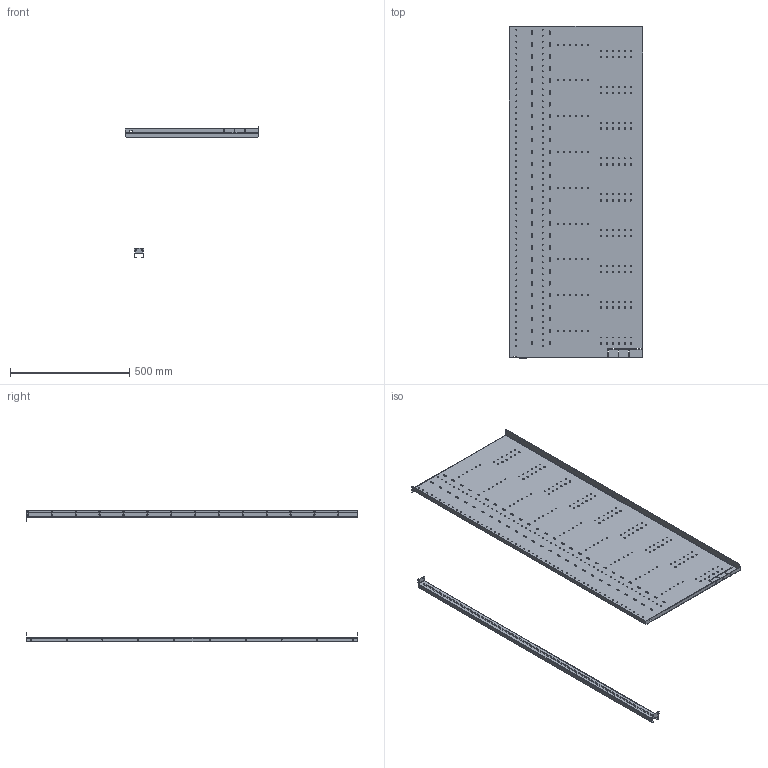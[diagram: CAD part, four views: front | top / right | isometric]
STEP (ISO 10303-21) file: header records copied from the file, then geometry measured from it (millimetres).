
FILE_DESCRIPTION(('CAx-IF Rec.Pracs.---Model Styling and Organization---1.2---2011-12-15','CAx-IF Rec.Pracs.---Geometric and Assembly Validation Properties---4.1---2014-06-16','CAx-IF Rec.Pracs.---PMI Polyline Presentation---2.0---2013-05-24'),'2;1');
FILE_NAME('R5M2CCR27M12.stp','2021-05-05T11:51:29+03:00',(''),(''),'STEP Interface 4.4 by CT CoreTechnologie','3D_Evolution4.4 by CT CoreTechnologie','');
FILE_SCHEMA(('AUTOMOTIVE_DESIGN { 1 0 10303 214 1 1 1 1 }'));
Length unit declared in the file: millimetre
Products named in the file (3): R5M2CCR27M12; RB.0838.00.00.0_-01; RB.1402.00.00.0_-01
Assembly tree (2 placements, depth 2):
  R5M2CCR27M12
    RB.0838.00.00.0_-01
    RB.1402.00.00.0_-01
Bounding box: 559.5 x 1390 x 552 mm (x, y, z)
Surface area: 1937867.3 mm2 (no closed solid volume)
Topology: 0 solids, 2 shells, 1345 faces, 4029 edges, 2678 vertices
Faces by surface type: cylinder 1006, plane 335, bspline 4
Entity records: 48754 total; most frequent: DIRECTION 8716, CARTESIAN_POINT 8207, ORIENTED_EDGE 8058, EDGE_CURVE 4029, AXIS2_PLACEMENT_3D 3351, VERTEX_POINT 2680, EDGE_LOOP 2433, VECTOR 2014
